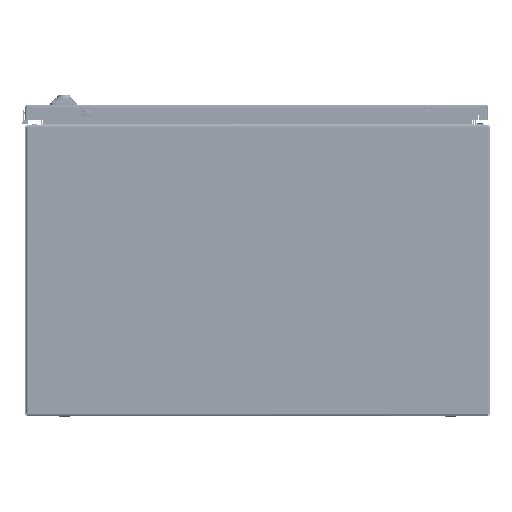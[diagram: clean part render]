
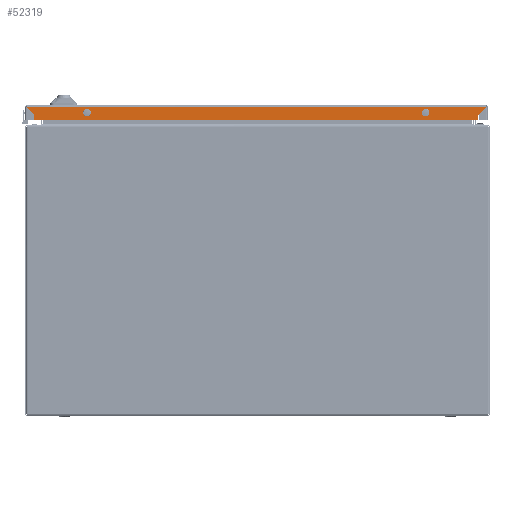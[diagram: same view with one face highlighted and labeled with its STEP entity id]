
A CAD part, front view. The second image highlights one B-rep face of the part: STEP entity #52319.
In plain terms, the highlighted planar face has unit normal (0, -1, 0).
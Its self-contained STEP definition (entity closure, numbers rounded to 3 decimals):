
#338 = LINE ( 'NONE', #213907, #96291 ) ;
#5701 = EDGE_LOOP ( 'NONE', ( #156435, #194990 ) ) ;
#6736 = CARTESIAN_POINT ( 'NONE',  ( 286.5, -398.5, 1.5 ) ) ;
#12549 = EDGE_CURVE ( 'NONE', #63567, #213240, #59383, .T. ) ;
#14565 = CARTESIAN_POINT ( 'NONE',  ( 296.4, -398.5, 2.1 ) ) ;
#14641 = LINE ( 'NONE', #58901, #212438 ) ;
#15543 = DIRECTION ( 'NONE',  ( 0., -1., 0. ) ) ;
#25310 = EDGE_CURVE ( 'NONE', #213240, #200270, #338, .T. ) ;
#25637 = CARTESIAN_POINT ( 'NONE',  ( -286.5, -398.5, 18.5 ) ) ;
#26013 = PLANE ( 'NONE',  #187211 ) ;
#28276 = EDGE_CURVE ( 'NONE', #163366, #182289, #38271, .T. ) ;
#34655 = CARTESIAN_POINT ( 'NONE',  ( 218.5, -398.5, 13.5 ) ) ;
#34826 = CIRCLE ( 'NONE', #204462, 4. ) ;
#38271 = CIRCLE ( 'NONE', #231261, 4. ) ;
#42165 = DIRECTION ( 'NONE',  ( -1., 0., 0. ) ) ;
#44779 = EDGE_LOOP ( 'NONE', ( #187431, #55307 ) ) ;
#47232 = CARTESIAN_POINT ( 'NONE',  ( 218.5, -398.5, 5.5 ) ) ;
#47819 = FACE_BOUND ( 'NONE', #44779, .T. ) ;
#50212 = VECTOR ( 'NONE', #69366, 1000. ) ;
#52319 = ADVANCED_FACE ( 'NONE', ( #149793, #47819, #143813 ), #26013, .F. ) ;
#55307 = ORIENTED_EDGE ( 'NONE', *, *, #200981, .F. ) ;
#58901 = CARTESIAN_POINT ( 'NONE',  ( -286.5, -398.5, 12. ) ) ;
#59383 = LINE ( 'NONE', #93941, #212272 ) ;
#63567 = VERTEX_POINT ( 'NONE', #187411 ) ;
#69366 = DIRECTION ( 'NONE',  ( -0.707, 0., 0.707 ) ) ;
#70063 = DIRECTION ( 'NONE',  ( 0., -1., 0. ) ) ;
#71146 = VERTEX_POINT ( 'NONE', #136430 ) ;
#73194 = VERTEX_POINT ( 'NONE', #14565 ) ;
#75002 = VERTEX_POINT ( 'NONE', #119852 ) ;
#82114 = CARTESIAN_POINT ( 'NONE',  ( -296.4, -398.5, 2.1 ) ) ;
#82750 = CARTESIAN_POINT ( 'NONE',  ( -218.5, -398.5, 9.5 ) ) ;
#85521 = VERTEX_POINT ( 'NONE', #82114 ) ;
#91877 = DIRECTION ( 'NONE',  ( 0., -1., 0. ) ) ;
#92882 = VERTEX_POINT ( 'NONE', #151319 ) ;
#93860 = EDGE_CURVE ( 'NONE', #182289, #163366, #213309, .T. ) ;
#93941 = CARTESIAN_POINT ( 'NONE',  ( 286.5, -398.5, 18.5 ) ) ;
#95190 = VECTOR ( 'NONE', #95966, 1000. ) ;
#95579 = CARTESIAN_POINT ( 'NONE',  ( 286.5, -398.5, 18.5 ) ) ;
#95966 = DIRECTION ( 'NONE',  ( -1., 0., 0. ) ) ;
#96291 = VECTOR ( 'NONE', #42165, 1000. ) ;
#101187 = LINE ( 'NONE', #184147, #50212 ) ;
#102061 = DIRECTION ( 'NONE',  ( 0., 0., -1. ) ) ;
#102483 = ORIENTED_EDGE ( 'NONE', *, *, #25310, .T. ) ;
#113252 = DIRECTION ( 'NONE',  ( 0., 0., 1. ) ) ;
#113510 = CIRCLE ( 'NONE', #131187, 4. ) ;
#116755 = DIRECTION ( 'NONE',  ( -0.707, 0., -0.707 ) ) ;
#119852 = CARTESIAN_POINT ( 'NONE',  ( -218.5, -398.5, 5.5 ) ) ;
#123692 = AXIS2_PLACEMENT_3D ( 'NONE', #184839, #70063, #204114 ) ;
#129101 = CARTESIAN_POINT ( 'NONE',  ( -286.5, -398.5, 18.5 ) ) ;
#130409 = CARTESIAN_POINT ( 'NONE',  ( -218.5, -398.5, 9.5 ) ) ;
#131187 = AXIS2_PLACEMENT_3D ( 'NONE', #82750, #216771, #102061 ) ;
#136430 = CARTESIAN_POINT ( 'NONE',  ( -218.5, -398.5, 13.5 ) ) ;
#136784 = EDGE_LOOP ( 'NONE', ( #234121, #154970, #205956, #102483, #246633, #212054 ) ) ;
#143813 = FACE_OUTER_BOUND ( 'NONE', #136784, .T. ) ;
#149625 = DIRECTION ( 'NONE',  ( 0., 0., -1. ) ) ;
#149793 = FACE_BOUND ( 'NONE', #5701, .T. ) ;
#151319 = CARTESIAN_POINT ( 'NONE',  ( -286.5, -398.5, 12. ) ) ;
#154970 = ORIENTED_EDGE ( 'NONE', *, *, #220335, .T. ) ;
#155814 = VECTOR ( 'NONE', #159747, 1000. ) ;
#156435 = ORIENTED_EDGE ( 'NONE', *, *, #93860, .F. ) ;
#159747 = DIRECTION ( 'NONE',  ( 0., 0., -1. ) ) ;
#160127 = DIRECTION ( 'NONE',  ( 0., 0., 1. ) ) ;
#163366 = VERTEX_POINT ( 'NONE', #34655 ) ;
#171276 = EDGE_CURVE ( 'NONE', #73194, #85521, #236018, .T. ) ;
#172241 = CARTESIAN_POINT ( 'NONE',  ( 286.5, -398.5, 2.1 ) ) ;
#182289 = VERTEX_POINT ( 'NONE', #47232 ) ;
#184147 = CARTESIAN_POINT ( 'NONE',  ( 286.5, -398.5, 12. ) ) ;
#184839 = CARTESIAN_POINT ( 'NONE',  ( 218.5, -398.5, 9.5 ) ) ;
#187211 = AXIS2_PLACEMENT_3D ( 'NONE', #6736, #216994, #160127 ) ;
#187411 = CARTESIAN_POINT ( 'NONE',  ( 286.5, -398.5, 12. ) ) ;
#187431 = ORIENTED_EDGE ( 'NONE', *, *, #219452, .F. ) ;
#194643 = LINE ( 'NONE', #25637, #155814 ) ;
#194990 = ORIENTED_EDGE ( 'NONE', *, *, #28276, .F. ) ;
#200270 = VERTEX_POINT ( 'NONE', #129101 ) ;
#200981 = EDGE_CURVE ( 'NONE', #71146, #75002, #34826, .T. ) ;
#204114 = DIRECTION ( 'NONE',  ( 0., 0., 1. ) ) ;
#204462 = AXIS2_PLACEMENT_3D ( 'NONE', #130409, #15543, #149625 ) ;
#205956 = ORIENTED_EDGE ( 'NONE', *, *, #12549, .T. ) ;
#206610 = CARTESIAN_POINT ( 'NONE',  ( 218.5, -398.5, 9.5 ) ) ;
#210219 = EDGE_CURVE ( 'NONE', #200270, #92882, #194643, .T. ) ;
#210777 = EDGE_CURVE ( 'NONE', #92882, #85521, #14641, .T. ) ;
#212054 = ORIENTED_EDGE ( 'NONE', *, *, #210777, .T. ) ;
#212272 = VECTOR ( 'NONE', #113252, 1000. ) ;
#212438 = VECTOR ( 'NONE', #116755, 1000. ) ;
#213240 = VERTEX_POINT ( 'NONE', #95579 ) ;
#213309 = CIRCLE ( 'NONE', #123692, 4. ) ;
#213907 = CARTESIAN_POINT ( 'NONE',  ( -286.5, -398.5, 18.5 ) ) ;
#216771 = DIRECTION ( 'NONE',  ( 0., -1., 0. ) ) ;
#216994 = DIRECTION ( 'NONE',  ( 0., 1., 0. ) ) ;
#219452 = EDGE_CURVE ( 'NONE', #75002, #71146, #113510, .T. ) ;
#220335 = EDGE_CURVE ( 'NONE', #73194, #63567, #101187, .T. ) ;
#225873 = DIRECTION ( 'NONE',  ( 0., 0., 1. ) ) ;
#231261 = AXIS2_PLACEMENT_3D ( 'NONE', #206610, #91877, #225873 ) ;
#234121 = ORIENTED_EDGE ( 'NONE', *, *, #171276, .F. ) ;
#236018 = LINE ( 'NONE', #172241, #95190 ) ;
#246633 = ORIENTED_EDGE ( 'NONE', *, *, #210219, .T. ) ;
